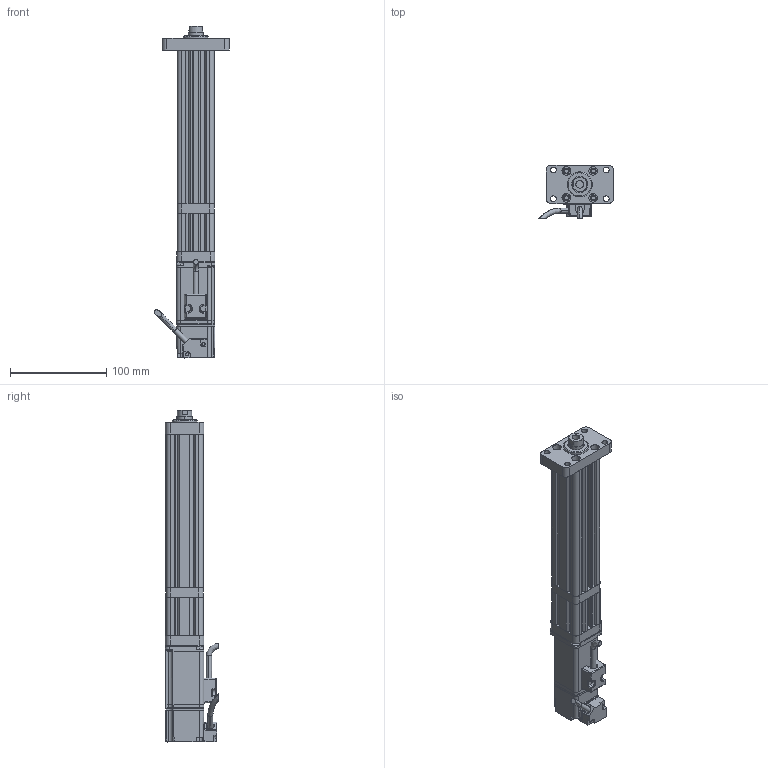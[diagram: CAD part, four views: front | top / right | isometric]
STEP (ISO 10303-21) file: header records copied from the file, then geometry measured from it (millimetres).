
FILE_DESCRIPTION (( 'STEP AP214' ), '1' );
FILE_NAME ('039-S100-D02-A-M3-C2-2.STEP', '2021-03-02T05:30:26', ( '' ), ( '' ), 'SwSTEP 2.0', 'SolidWorks 2018', '' );
FILE_SCHEMA (( 'AUTOMOTIVE_DESIGN' ));
Length unit declared in the file: millimetre
Products named in the file (8): 039-S100-D02-A-M3-C2-2; CMC039-DT; CMC039-FL1; CMC039-AZB; CMC039-DJZ; ECMA-CX0401ES-40框號系列機種-100W低慣量系列; CMC039-ZLLJB; CMC039-GT
Assembly tree (7 placements, depth 2):
  039-S100-D02-A-M3-C2-2
    CMC039-GT
    CMC039-DT
    CMC039-ZLLJB
    CMC039-DJZ
    ECMA-CX0401ES-40框號系列機種-100W低慣量系列
    CMC039-AZB
    CMC039-FL1
Bounding box: 77.83 x 55.39 x 345.6 mm (x, y, z)
Volume: 394953.3 mm3; surface area: 121324.2 mm2
Topology: 7 solids, 15 shells, 713 faces, 1880 edges, 1181 vertices
Faces by surface type: cylinder 298, plane 292, bspline 84, cone 39
Entity records: 28208 total; most frequent: CARTESIAN_POINT 11266, ORIENTED_EDGE 3694, DIRECTION 3033, EDGE_CURVE 1847, VERTEX_POINT 1181, AXIS2_PLACEMENT_3D 1035, LINE 963, VECTOR 963
